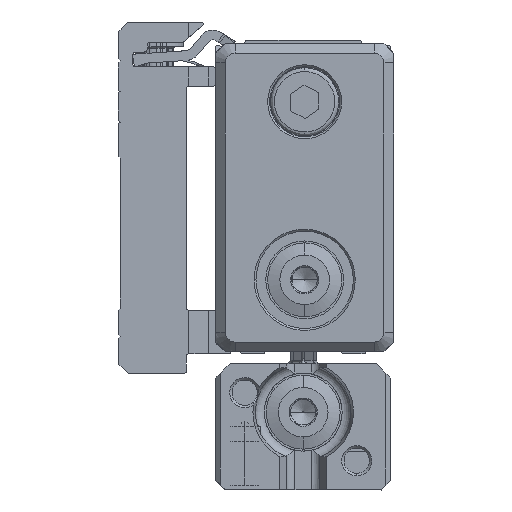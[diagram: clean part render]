
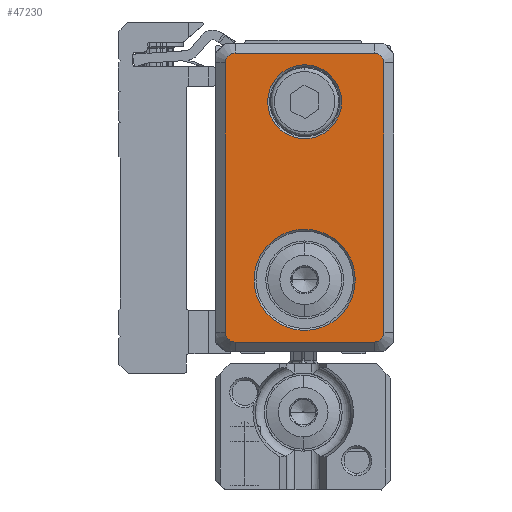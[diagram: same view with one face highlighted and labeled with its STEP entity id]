
A CAD part, left-side view. The second image highlights one B-rep face of the part: STEP entity #47230.
In plain terms, the highlighted planar face has unit normal (-1, 0, 0).
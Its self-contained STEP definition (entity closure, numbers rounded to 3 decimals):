
#12150=CARTESIAN_POINT('',(-377.138,31.,
-50.583));
#12160=VERTEX_POINT('',#12150);
#12970=CARTESIAN_POINT('',(-377.138,30.,
-51.583));
#12980=VERTEX_POINT('',#12970);
#13010=CARTESIAN_POINT('',(-377.138,31.,
-51.583));
#13020=DIRECTION('',(1.,0.,0.));
#13030=DIRECTION('',(0.,1.,0.));
#13040=AXIS2_PLACEMENT_3D('',#13010,#13020,#13030);
#13050=CIRCLE('',#13040,1.);
#13060=EDGE_CURVE('',#12160,#12980,#13050,.T.);
#20920=CARTESIAN_POINT('',(-377.138,43.35,
-56.983));
#20930=VERTEX_POINT('',#20920);
#20960=CARTESIAN_POINT('',(-377.138,38.15,
-56.983));
#20970=DIRECTION('',(1.,0.,0.));
#20980=DIRECTION('',(0.,-1.,0.));
#20990=AXIS2_PLACEMENT_3D('',#20960,#20970,#20980);
#21000=CIRCLE('',#20990,5.2);
#21010=CARTESIAN_POINT('',(-377.138,32.95,
-56.983));
#21020=VERTEX_POINT('',#21010);
#21030=EDGE_CURVE('',#20930,#21020,#21000,.T.);
#30110=CARTESIAN_POINT('',(-377.138,41.95,
-75.283));
#30120=VERTEX_POINT('',#30110);
#30200=CARTESIAN_POINT('',(-377.138,34.35,
-75.283));
#30210=VERTEX_POINT('',#30200);
#30240=CARTESIAN_POINT('',(-377.138,38.15,
-75.283));
#30250=DIRECTION('',(-1.,0.,0.));
#30260=DIRECTION('',(0.,1.,0.));
#30270=AXIS2_PLACEMENT_3D('',#30240,#30250,#30260);
#30280=CIRCLE('',#30270,3.8);
#30290=EDGE_CURVE('',#30120,#30210,#30280,.T.);
#35650=CARTESIAN_POINT('',(-377.138,45.3,
-50.583));
#35660=VERTEX_POINT('',#35650);
#35710=CARTESIAN_POINT('',(-377.138,46.75,
-50.583));
#35720=DIRECTION('',(0.,1.,0.));
#35730=VECTOR('',#35720,1.);
#35740=LINE('',#35710,#35730);
#35750=EDGE_CURVE('',#12160,#35660,#35740,.T.);
#35910=CARTESIAN_POINT('',(-377.138,46.3,
-51.583));
#35920=VERTEX_POINT('',#35910);
#36450=CARTESIAN_POINT('',(-377.138,45.3,
-51.583));
#36460=DIRECTION('',(1.,0.,0.));
#36470=DIRECTION('',(0.,1.,0.));
#36480=AXIS2_PLACEMENT_3D('',#36450,#36460,#36470);
#36490=CIRCLE('',#36480,1.);
#36500=EDGE_CURVE('',#35920,#35660,#36490,.T.);
#36710=CARTESIAN_POINT('',(-377.138,46.3,
-79.283));
#36720=VERTEX_POINT('',#36710);
#36840=CARTESIAN_POINT('',(-377.138,46.3,
-49.133));
#36850=DIRECTION('',(0.,0.,-1.));
#36860=VECTOR('',#36850,1.);
#36870=LINE('',#36840,#36860);
#36880=EDGE_CURVE('',#35920,#36720,#36870,.T.);
#37010=CARTESIAN_POINT('',(-377.138,45.3,
-79.283));
#37020=DIRECTION('',(1.,0.,0.));
#37030=DIRECTION('',(0.,1.,0.));
#37040=AXIS2_PLACEMENT_3D('',#37010,#37020,#37030);
#37050=CIRCLE('',#37040,1.);
#37060=CARTESIAN_POINT('',(-377.138,45.3,
-80.283));
#37070=VERTEX_POINT('',#37060);
#37080=EDGE_CURVE('',#37070,#36720,#37050,.T.);
#39400=CARTESIAN_POINT('',(-377.138,31.,
-80.283));
#39410=VERTEX_POINT('',#39400);
#39460=CARTESIAN_POINT('',(-377.138,46.75,
-80.283));
#39470=DIRECTION('',(0.,-1.,0.));
#39480=VECTOR('',#39470,1.);
#39490=LINE('',#39460,#39480);
#39500=EDGE_CURVE('',#37070,#39410,#39490,.T.);
#39860=CARTESIAN_POINT('',(-377.138,31.,
-79.283));
#39870=DIRECTION('',(1.,0.,0.));
#39880=DIRECTION('',(0.,1.,0.));
#39890=AXIS2_PLACEMENT_3D('',#39860,#39870,#39880);
#39900=CIRCLE('',#39890,1.);
#39910=CARTESIAN_POINT('',(-377.138,30.,
-79.283));
#39920=VERTEX_POINT('',#39910);
#39930=EDGE_CURVE('',#39920,#39410,#39900,.T.);
#40200=CARTESIAN_POINT('',(-377.138,30.,
-49.133));
#40210=DIRECTION('',(0.,0.,1.));
#40220=VECTOR('',#40210,1.);
#40230=LINE('',#40200,#40220);
#40240=EDGE_CURVE('',#39920,#12980,#40230,.T.);
#46980=CARTESIAN_POINT('',(-377.138,38.15,
-65.583));
#46990=DIRECTION('',(1.,0.,0.));
#47000=DIRECTION('',(0.,1.,0.));
#47010=AXIS2_PLACEMENT_3D('',#46980,#46990,#47000);
#47020=PLANE('',#47010);
#47030=EDGE_CURVE('',#21020,#20930,#21000,.T.);
#47040=ORIENTED_EDGE('',*,*,#47030,.T.);
#47050=ORIENTED_EDGE('',*,*,#21030,.T.);
#47060=EDGE_LOOP('',(#47050,#47040));
#47070=FACE_BOUND('',#47060,.T.);
#47080=EDGE_CURVE('',#30210,#30120,#30280,.T.);
#47090=ORIENTED_EDGE('',*,*,#47080,.F.);
#47100=ORIENTED_EDGE('',*,*,#30290,.F.);
#47110=EDGE_LOOP('',(#47100,#47090));
#47120=FACE_BOUND('',#47110,.T.);
#47130=ORIENTED_EDGE('',*,*,#39500,.T.);
#47140=ORIENTED_EDGE('',*,*,#37080,.F.);
#47150=ORIENTED_EDGE('',*,*,#36880,.T.);
#47160=ORIENTED_EDGE('',*,*,#36500,.F.);
#47170=ORIENTED_EDGE('',*,*,#35750,.T.);
#47180=ORIENTED_EDGE('',*,*,#13060,.F.);
#47190=ORIENTED_EDGE('',*,*,#40240,.T.);
#47200=ORIENTED_EDGE('',*,*,#39930,.F.);
#47210=EDGE_LOOP('',(#47200,#47190,#47180,#47170,#47160,#47150,#47140,
#47130));
#47220=FACE_OUTER_BOUND('',#47210,.T.);
#47230=ADVANCED_FACE('',(#47070,#47120,#47220),#47020,.F.);
